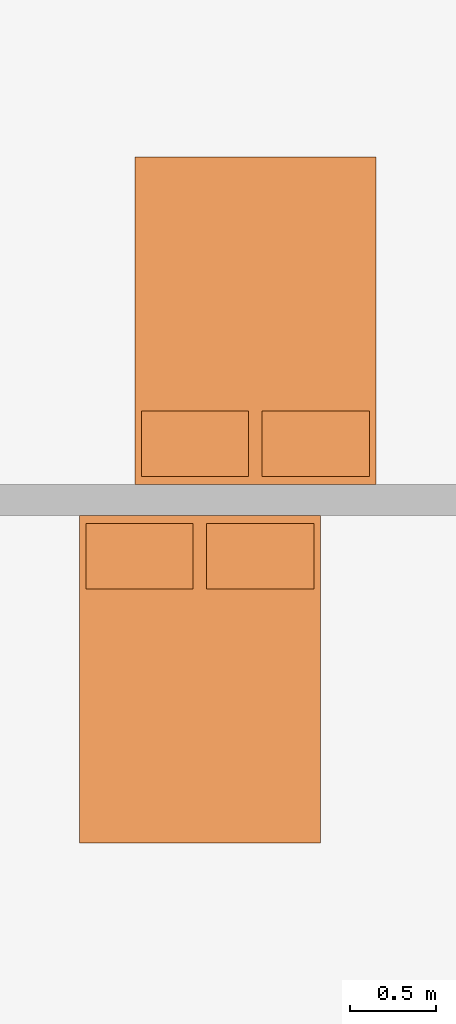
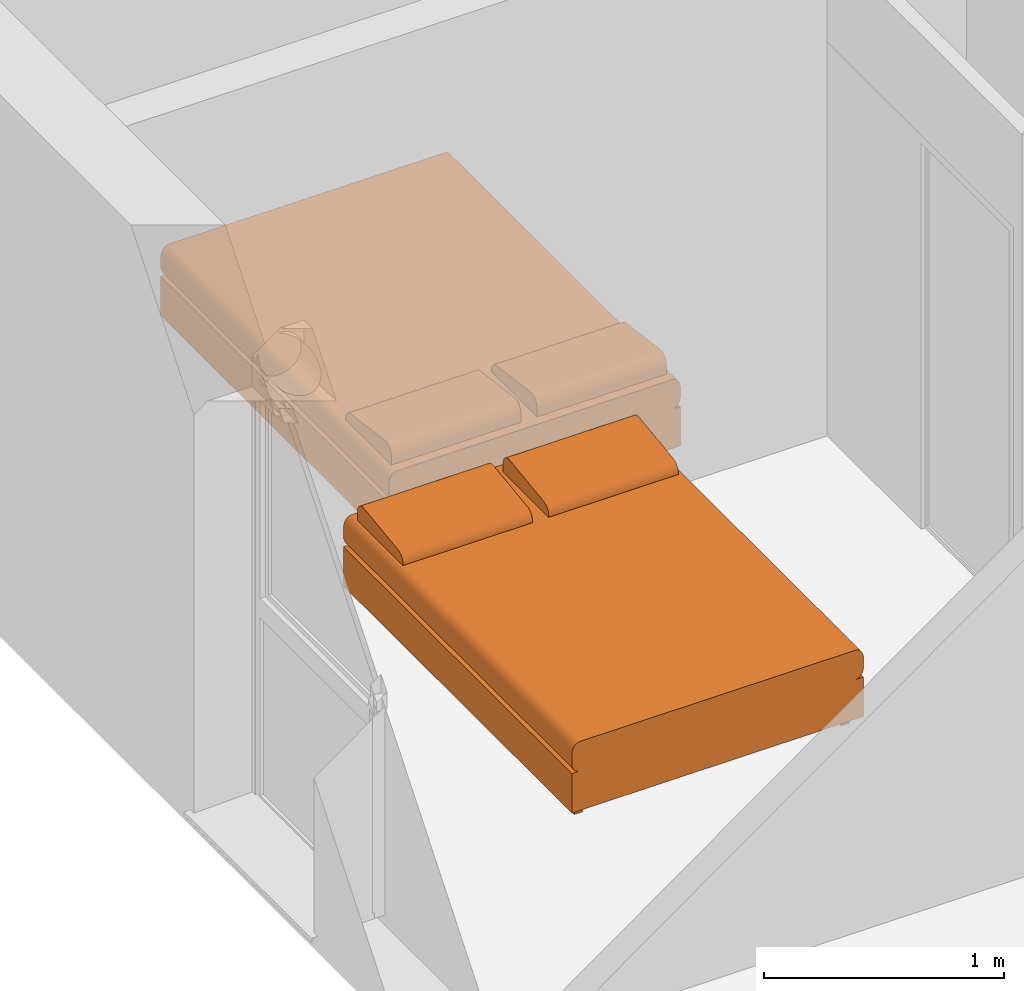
# One storey, part 148 of 164: 2 proxies.
"""IFC2X3 building model written with IfcOpenShell, lengths in millimetres."""

from ifc_helpers import new_model, entity, si_unit, converted_unit, derived_unit, money_unit, direction, frame, origin_with_axes, place, context, subcontext, project, spatial, open_shell, faceted_brep, surface_model, source, transform, mapped, type_object, element, save


model = new_model("IFC2X3")

# Units and contexts
model_context = context("Model", 3, precision=0.01, world=origin_with_axes(), true_north=direction((0.0, 1.0)))
body_context = subcontext(model_context, "Body", "Model", "MODEL_VIEW")
ifc_project = project(units=[si_unit("LENGTHUNIT", "METRE", prefix="MILLI"), si_unit("AREAUNIT", "SQUARE_METRE"), si_unit("VOLUMEUNIT", "CUBIC_METRE"), converted_unit("PLANEANGLEUNIT", "DEGREE", entity("IfcPlaneAngleMeasure", 0.0174532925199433), si_unit("PLANEANGLEUNIT", "RADIAN"), dimensions=[0, 0, 0, 0, 0, 0, 0]), money_unit("USD"), converted_unit("TIMEUNIT", "Year", entity("IfcTimeMeasure", 31557600.0), si_unit("TIMEUNIT", "SECOND"), dimensions=[0, 0, 1, 0, 0, 0, 0]), si_unit("MASSUNIT", "GRAM", prefix="KILO"), si_unit("THERMODYNAMICTEMPERATUREUNIT", "DEGREE_CELSIUS"), si_unit("LUMINOUSINTENSITYUNIT", "LUMEN"), si_unit("ENERGYUNIT", "JOULE", prefix="MEGA"), derived_unit("THERMALCONDUCTANCEUNIT", [(si_unit("POWERUNIT", "WATT"), 1), (si_unit("LENGTHUNIT", "METRE"), -1), (si_unit("THERMODYNAMICTEMPERATUREUNIT", "KELVIN"), -1)]), derived_unit("SPECIFICHEATCAPACITYUNIT", [(si_unit("ENERGYUNIT", "JOULE"), 1), (si_unit("MASSUNIT", "GRAM", prefix="KILO"), -1), (si_unit("THERMODYNAMICTEMPERATUREUNIT", "KELVIN"), -1)]), derived_unit("MASSDENSITYUNIT", [(si_unit("MASSUNIT", "GRAM", prefix="KILO"), 1), (si_unit("VOLUMEUNIT", "CUBIC_METRE"), -1)])], contexts=[model_context])

# Site, building, storey
site_placement = place(None, origin_with_axes())
site = spatial("IfcSite", under=ifc_project, at=site_placement, Name="Site", CompositionType="ELEMENT")
building_placement = place(site_placement, origin_with_axes())
building = spatial("IfcBuilding", under=site, at=building_placement, Name="Bâtiment", CompositionType="ELEMENT")
storey_placement = place(building_placement, frame((0.0, 0.0, 5750.0), z_axis=(0.0, 0.0, 1.0), x_axis=(1.0, 0.0, 0.0)))
storey = spatial("IfcBuildingStorey", under=building, at=storey_placement, Name="Etage1", CompositionType="ELEMENT", Elevation=5750.0)

# Proxies
building_element_proxy_type = type_object("IfcBuildingElementProxyType", PredefinedType="NOTDEFINED")
shared_shape_1 = source(origin_with_axes(), body_context, "Body", "SurfaceModel", [
    faceted_brep([(-622.2222222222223, -95.0, 0.0), (-661.1111111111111, -95.0, 0.0), (-661.1111111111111, -47.5, 0.0), (-622.2222222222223, -47.5, 0.0), (-622.2222222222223, -95.0, 50.0), (-661.1111111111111, -95.0, 50.0), (-661.1111111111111, -47.5, 50.0), (-622.2222222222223, -47.5, 50.0)], [[[0, 1, 2, 3]], [[1, 0, 4, 5]], [[2, 1, 5, 6]], [[3, 2, 6, 7]], [[0, 3, 7, 4]], [[5, 4, 7, 6]]]),
    faceted_brep([(-622.2222222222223, -1852.5, 0.0), (-661.1111111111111, -1852.5, 0.0), (-661.1111111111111, -1805.0, 0.0), (-622.2222222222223, -1805.0, 0.0), (-622.2222222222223, -1852.5, 50.0), (-661.1111111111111, -1852.5, 50.0), (-661.1111111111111, -1805.0, 50.0), (-622.2222222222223, -1805.0, 50.0)], [[[0, 1, 2, 3]], [[1, 0, 4, 5]], [[2, 1, 5, 6]], [[3, 2, 6, 7]], [[0, 3, 7, 4]], [[5, 4, 7, 6]]]),
    faceted_brep([(661.111111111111, -1852.5, 0.0), (622.2222222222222, -1852.5, 0.0), (622.2222222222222, -1805.0, 0.0), (661.111111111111, -1805.0, 0.0), (661.111111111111, -1852.5, 50.0), (622.2222222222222, -1852.5, 50.0), (622.2222222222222, -1805.0, 50.0), (661.111111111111, -1805.0, 50.0)], [[[0, 1, 2, 3]], [[1, 0, 4, 5]], [[2, 1, 5, 6]], [[3, 2, 6, 7]], [[0, 3, 7, 4]], [[5, 4, 7, 6]]]),
    faceted_brep([(661.111111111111, -94.99999999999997, 0.0), (622.2222222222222, -94.99999999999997, 0.0), (622.2222222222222, -47.49999999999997, 0.0), (661.111111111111, -47.49999999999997, 0.0), (661.111111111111, -94.99999999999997, 50.0), (622.2222222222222, -94.99999999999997, 50.0), (622.2222222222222, -47.49999999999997, 50.0), (661.111111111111, -47.49999999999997, 50.0)], [[[0, 1, 2, 3]], [[1, 0, 4, 5]], [[2, 1, 5, 6]], [[3, 2, 6, 7]], [[0, 3, 7, 4]], [[5, 4, 7, 6]]]),
    faceted_brep([(-700.0, 0.0, 50.0), (700.0, 0.0, 50.0), (700.0, -1900.0, 50.00000000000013), (-700.0, -1900.0, 50.00000000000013), (-700.0, 0.0, 250.0), (700.0, 0.0, 250.0), (700.0, -1900.0, 250.0000000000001), (-700.0, -1900.0, 250.0000000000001)], [[[0, 1, 2, 3]], [[0, 4, 5, 1]], [[1, 5, 6, 2]], [[3, 2, 6, 7]], [[4, 0, 3, 7]], [[5, 4, 7, 6]]]),
    surface_model("IfcShellBasedSurfaceModel", [(661.1111111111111, 0.0, 250.0), (667.8640957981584, 0.0, 250.7596123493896), (667.8640957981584, -1900.0, 250.7596123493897), (661.1111111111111, -1900.0, 250.0000000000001), (-661.1111111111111, 0.0, 250.0), (-667.8640957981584, 0.0, 250.7596123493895), (-674.4118944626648, 0.0, 253.0153689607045), (-680.5555555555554, 0.0, 256.698729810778), (-686.1084070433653, 0.0, 261.6977778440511), (-690.9017283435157, 0.0, 267.860619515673), (-694.7898768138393, 0.0, 275.0), (-697.654713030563, 0.0, 282.8989928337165), (-699.4091903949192, 0.0, 291.3175911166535), (-700.0, 0.0, 300.0000000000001), (-700.0000000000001, 0.0, 350.0), (-699.4091903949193, 0.0, 358.6824088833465), (-697.654713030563, 0.0, 367.1010071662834), (-694.7898768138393, 0.0, 375.0), (-690.9017283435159, 0.0, 382.139380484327), (-686.1084070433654, 0.0, 388.3022221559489), (-680.5555555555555, 0.0, 393.301270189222), (-674.4118944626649, 0.0, 396.9846310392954), (-667.8640957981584, 0.0, 399.2403876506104), (-661.1111111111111, 0.0, 400.0), (661.111111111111, 0.0, 400.0000000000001), (667.8640957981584, 0.0, 399.2403876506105), (674.4118944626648, 0.0, 396.9846310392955), (680.5555555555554, 0.0, 393.301270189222), (686.1084070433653, 0.0, 388.3022221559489), (690.9017283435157, 0.0, 382.139380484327), (694.7898768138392, 0.0, 375.0000000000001), (697.654713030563, 0.0, 367.1010071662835), (699.4091903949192, 0.0, 358.6824088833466), (700.0, 0.0, 350.0000000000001), (700.0, 0.0, 300.0000000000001), (699.4091903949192, 0.0, 291.3175911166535), (697.654713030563, 0.0, 282.8989928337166), (694.7898768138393, 0.0, 275.0), (690.9017283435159, 0.0, 267.8606195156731), (686.1084070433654, 0.0, 261.6977778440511), (680.5555555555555, 0.0, 256.698729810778), (674.4118944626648, 0.0, 253.0153689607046), (674.4118944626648, -1900.0, 253.0153689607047), (-661.1111111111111, -1900.0, 250.0000000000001), (680.5555555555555, -1900.0, 256.6987298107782), (686.1084070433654, -1900.0, 261.6977778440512), (690.9017283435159, -1900.0, 267.8606195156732), (694.7898768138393, -1900.0, 275.0000000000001), (697.654713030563, -1900.0, 282.8989928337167), (699.4091903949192, -1900.0, 291.3175911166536), (700.0, -1900.0, 300.0000000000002), (700.0, -1900.0, 350.0000000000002), (699.4091903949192, -1900.0, 358.6824088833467), (697.654713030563, -1900.0, 367.1010071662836), (694.7898768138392, -1900.0, 375.0000000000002), (690.9017283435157, -1900.0, 382.1393804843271), (686.1084070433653, -1900.0, 388.302222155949), (680.5555555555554, -1900.0, 393.3012701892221), (674.4118944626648, -1900.0, 396.9846310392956), (667.8640957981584, -1900.0, 399.2403876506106), (661.111111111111, -1900.0, 400.0000000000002), (-661.1111111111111, -1900.0, 400.0000000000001), (-667.8640957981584, -1900.0, 399.2403876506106), (-674.4118944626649, -1900.0, 396.9846310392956), (-680.5555555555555, -1900.0, 393.3012701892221), (-686.1084070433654, -1900.0, 388.302222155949), (-690.9017283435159, -1900.0, 382.1393804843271), (-694.7898768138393, -1900.0, 375.0000000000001), (-697.654713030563, -1900.0, 367.1010071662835), (-699.4091903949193, -1900.0, 358.6824088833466), (-700.0000000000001, -1900.0, 350.0000000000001), (-700.0, -1900.0, 300.0000000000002), (-699.4091903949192, -1900.0, 291.3175911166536), (-697.654713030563, -1900.0, 282.8989928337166), (-694.7898768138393, -1900.0, 275.0000000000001), (-690.9017283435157, -1900.0, 267.8606195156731), (-686.1084070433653, -1900.0, 261.6977778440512), (-680.5555555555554, -1900.0, 256.6987298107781), (-674.4118944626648, -1900.0, 253.0153689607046), (-667.8640957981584, -1900.0, 250.7596123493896)], [open_shell([[[0, 1, 2, 3]], [[4, 5, 6, 7, 8, 9, 10, 11, 12, 13, 14, 15, 16, 17, 18, 19, 20, 21, 22, 23, 24, 25, 26, 27, 28, 29, 30, 31, 32, 33, 34, 35, 36, 37, 38, 39, 40, 41, 1, 0]], [[1, 41, 42, 2]], [[43, 3, 2, 42, 44, 45, 46, 47, 48, 49, 50, 51, 52, 53, 54, 55, 56, 57, 58, 59, 60, 61, 62, 63, 64, 65, 66, 67, 68, 69, 70, 71, 72, 73, 74, 75, 76, 77, 78, 79]], [[5, 4, 43, 79]], [[6, 5, 79, 78]], [[7, 6, 78, 77]], [[8, 7, 77, 76]], [[9, 8, 76, 75]], [[10, 9, 75, 74]], [[11, 10, 74, 73]], [[12, 11, 73, 72]], [[13, 12, 72, 71]], [[14, 13, 71, 70]], [[15, 14, 70, 69]], [[16, 15, 69, 68]], [[17, 16, 68, 67]], [[18, 17, 67, 66]], [[19, 18, 66, 65]], [[20, 19, 65, 64]], [[21, 20, 64, 63]], [[22, 21, 63, 62]], [[23, 22, 62, 61]], [[24, 23, 61, 60]], [[25, 24, 60, 59]], [[26, 25, 59, 58]], [[27, 26, 58, 57]], [[28, 27, 57, 56]], [[29, 28, 56, 55]], [[30, 29, 55, 54]], [[31, 30, 54, 53]], [[32, 31, 53, 52]], [[33, 32, 52, 51]], [[34, 33, 51, 50]], [[35, 34, 50, 49]], [[36, 35, 49, 48]], [[37, 36, 48, 47]], [[38, 37, 47, 46]], [[39, 38, 46, 45]], [[40, 39, 45, 44]], [[41, 40, 44, 42]]])]),
    faceted_brep([(38.88888888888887, -47.49999999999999, 400.0), (38.88888888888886, -47.49999999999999, 443.4), (661.1111111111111, -47.50000000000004, 443.4000000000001), (661.1111111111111, -47.50000000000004, 400.0000000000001), (38.88888888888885, -427.5, 400.0), (38.88888888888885, -427.6960812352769, 408.695442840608), (38.88888888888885, -426.4675711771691, 417.2966661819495), (38.88888888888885, -423.8511300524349, 425.5469991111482), (38.88888888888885, -419.9248356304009, 433.2002417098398), (38.88888888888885, -414.8058532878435, 440.0280119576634), (38.88888888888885, -408.6469396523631, 445.826560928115), (38.88888888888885, -401.6318841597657, 450.4228529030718), (38.88888888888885, -393.9700245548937, 453.6797289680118), (38.88888888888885, -385.89, 455.5), (38.88888888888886, -100.89, 493.0000000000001), (38.88888888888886, -92.85488048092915, 493.3370808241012), (38.88888888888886, -84.88093291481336, 492.2422169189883), (38.88888888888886, -77.19681007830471, 489.7468034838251), (38.88888888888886, -70.02285403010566, 485.922396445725), (38.88888888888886, -63.56477780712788, 480.878660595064), (38.88888888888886, -58.00776660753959, 474.7602249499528), (38.88888888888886, -53.51116760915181, 467.7425355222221), (38.88888888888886, -50.20392069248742, 460.0268244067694), (38.88888888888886, -48.18086109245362, 451.834339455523), (661.1111111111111, -48.18086109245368, 451.8343394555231), (661.1111111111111, -50.20392069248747, 460.0268244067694), (661.1111111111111, -53.51116760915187, 467.7425355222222), (661.1111111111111, -58.00776660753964, 474.7602249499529), (661.1111111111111, -63.56477780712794, 480.878660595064), (661.1111111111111, -70.02285403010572, 485.922396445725), (661.1111111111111, -77.19681007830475, 489.7468034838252), (661.1111111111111, -84.88093291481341, 492.2422169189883), (661.1111111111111, -92.85488048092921, 493.3370808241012), (661.1111111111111, -100.8900000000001, 493.0000000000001), (661.1111111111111, -385.89, 455.5000000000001), (661.1111111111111, -393.9700245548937, 453.6797289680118), (661.1111111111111, -401.6318841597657, 450.4228529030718), (661.1111111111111, -408.6469396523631, 445.826560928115), (661.1111111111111, -414.8058532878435, 440.0280119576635), (661.1111111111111, -419.924835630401, 433.2002417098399), (661.1111111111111, -423.8511300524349, 425.5469991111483), (661.1111111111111, -426.4675711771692, 417.2966661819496), (661.1111111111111, -427.6960812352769, 408.6954428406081), (661.1111111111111, -427.5, 400.0000000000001)], [[[0, 1, 2, 3]], [[0, 4, 5, 6, 7, 8, 9, 10, 11, 12, 13, 14, 15, 16, 17, 18, 19, 20, 21, 22, 23, 1]], [[1, 23, 24, 2]], [[3, 2, 24, 25, 26, 27, 28, 29, 30, 31, 32, 33, 34, 35, 36, 37, 38, 39, 40, 41, 42, 43]], [[4, 0, 3, 43]], [[5, 4, 43, 42]], [[6, 5, 42, 41]], [[7, 6, 41, 40]], [[8, 7, 40, 39]], [[9, 8, 39, 38]], [[10, 9, 38, 37]], [[11, 10, 37, 36]], [[12, 11, 36, 35]], [[13, 12, 35, 34]], [[14, 13, 34, 33]], [[15, 14, 33, 32]], [[16, 15, 32, 31]], [[17, 16, 31, 30]], [[18, 17, 30, 29]], [[19, 18, 29, 28]], [[20, 19, 28, 27]], [[21, 20, 27, 26]], [[22, 21, 26, 25]], [[23, 22, 25, 24]]]),
    faceted_brep([(-661.1111111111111, -47.49999999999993, 399.9999999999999), (-661.1111111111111, -47.49999999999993, 443.4), (-38.88888888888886, -47.49999999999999, 443.4), (-38.88888888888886, -47.49999999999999, 400.0), (-661.1111111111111, -427.4999999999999, 399.9999999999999), (-661.1111111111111, -427.6960812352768, 408.6954428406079), (-661.1111111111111, -426.4675711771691, 417.2966661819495), (-661.1111111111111, -423.8511300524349, 425.5469991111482), (-661.1111111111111, -419.9248356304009, 433.2002417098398), (-661.1111111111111, -414.8058532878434, 440.0280119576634), (-661.1111111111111, -408.646939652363, 445.8265609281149), (-661.1111111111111, -401.6318841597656, 450.4228529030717), (-661.1111111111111, -393.9700245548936, 453.6797289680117), (-661.1111111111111, -385.8899999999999, 455.4999999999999), (-661.1111111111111, -100.89, 493.0), (-661.1111111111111, -92.8548804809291, 493.3370808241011), (-661.1111111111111, -84.8809329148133, 492.2422169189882), (-661.1111111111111, -77.19681007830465, 489.7468034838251), (-661.1111111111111, -70.0228540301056, 485.9223964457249), (-661.1111111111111, -63.56477780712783, 480.8786605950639), (-661.1111111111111, -58.00776660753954, 474.7602249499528), (-661.1111111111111, -53.51116760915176, 467.7425355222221), (-661.1111111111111, -50.20392069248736, 460.0268244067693), (-661.1111111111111, -48.18086109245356, 451.834339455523), (-38.88888888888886, -48.18086109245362, 451.834339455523), (-38.88888888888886, -50.20392069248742, 460.0268244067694), (-38.88888888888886, -53.51116760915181, 467.7425355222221), (-38.88888888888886, -58.00776660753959, 474.7602249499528), (-38.88888888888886, -63.56477780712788, 480.878660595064), (-38.88888888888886, -70.02285403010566, 485.922396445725), (-38.88888888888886, -77.19681007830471, 489.7468034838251), (-38.88888888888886, -84.88093291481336, 492.2422169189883), (-38.88888888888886, -92.85488048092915, 493.3370808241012), (-38.88888888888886, -100.89, 493.0000000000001), (-38.88888888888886, -385.8899999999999, 455.5), (-38.88888888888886, -393.9700245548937, 453.6797289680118), (-38.88888888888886, -401.6318841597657, 450.4228529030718), (-38.88888888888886, -408.6469396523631, 445.826560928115), (-38.88888888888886, -414.8058532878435, 440.0280119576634), (-38.88888888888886, -419.9248356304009, 433.2002417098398), (-38.88888888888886, -423.8511300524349, 425.5469991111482), (-38.88888888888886, -426.4675711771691, 417.2966661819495), (-38.88888888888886, -427.6960812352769, 408.695442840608), (-38.88888888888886, -427.4999999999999, 400.0)], [[[0, 1, 2, 3]], [[0, 4, 5, 6, 7, 8, 9, 10, 11, 12, 13, 14, 15, 16, 17, 18, 19, 20, 21, 22, 23, 1]], [[1, 23, 24, 2]], [[3, 2, 24, 25, 26, 27, 28, 29, 30, 31, 32, 33, 34, 35, 36, 37, 38, 39, 40, 41, 42, 43]], [[4, 0, 3, 43]], [[5, 4, 43, 42]], [[6, 5, 42, 41]], [[7, 6, 41, 40]], [[8, 7, 40, 39]], [[9, 8, 39, 38]], [[10, 9, 38, 37]], [[11, 10, 37, 36]], [[12, 11, 36, 35]], [[13, 12, 35, 34]], [[14, 13, 34, 33]], [[15, 14, 33, 32]], [[16, 15, 32, 31]], [[17, 16, 31, 30]], [[18, 17, 30, 29]], [[19, 18, 29, 28]], [[20, 19, 28, 27]], [[21, 20, 27, 26]], [[22, 21, 26, 25]], [[23, 22, 25, 24]]]),
])
proxy_1_placement = place(storey_placement, frame((2218718.618679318, -632613.6186700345, 0.0), z_axis=(0.0, 0.0, 1.0), x_axis=(0.9999999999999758, -2.201927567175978e-07, 0.0)))
element("IfcBuildingElementProxy", 1, at=proxy_1_placement, inside=storey, type_object=building_element_proxy_type, Name="Obj.-003", context=body_context, shape_type="MappedRepresentation", body=[
    mapped(shared_shape_1, transform((0.0, 0.0, 0.0))),
])
shared_shape_2 = source(origin_with_axes(), body_context, "Body", "SurfaceModel", [
    faceted_brep([(622.2222222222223, -95.0, 0.0), (622.2222222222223, -47.5, 0.0), (661.1111111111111, -47.5, 0.0), (661.1111111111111, -95.0, 0.0), (622.2222222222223, -95.0, 50.0), (622.2222222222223, -47.5, 50.0), (661.1111111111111, -47.5, 50.0), (661.1111111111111, -95.0, 50.0)], [[[0, 1, 2, 3]], [[0, 4, 5, 1]], [[1, 5, 6, 2]], [[2, 6, 7, 3]], [[3, 7, 4, 0]], [[7, 6, 5, 4]]]),
    faceted_brep([(622.2222222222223, -1852.5, 0.0), (622.2222222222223, -1805.0, 0.0), (661.1111111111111, -1805.0, 0.0), (661.1111111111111, -1852.5, 0.0), (622.2222222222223, -1852.5, 50.0), (622.2222222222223, -1805.0, 50.0), (661.1111111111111, -1805.0, 50.0), (661.1111111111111, -1852.5, 50.0)], [[[0, 1, 2, 3]], [[0, 4, 5, 1]], [[1, 5, 6, 2]], [[2, 6, 7, 3]], [[3, 7, 4, 0]], [[7, 6, 5, 4]]]),
    faceted_brep([(-661.111111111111, -1852.5, 0.0), (-661.111111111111, -1805.0, 0.0), (-622.2222222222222, -1805.0, 0.0), (-622.2222222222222, -1852.5, 0.0), (-661.111111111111, -1852.5, 50.0), (-661.111111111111, -1805.0, 50.0), (-622.2222222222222, -1805.0, 50.0), (-622.2222222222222, -1852.5, 50.0)], [[[0, 1, 2, 3]], [[0, 4, 5, 1]], [[1, 5, 6, 2]], [[2, 6, 7, 3]], [[3, 7, 4, 0]], [[7, 6, 5, 4]]]),
    faceted_brep([(-661.111111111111, -94.99999999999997, 0.0), (-661.111111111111, -47.49999999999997, 0.0), (-622.2222222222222, -47.49999999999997, 0.0), (-622.2222222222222, -94.99999999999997, 0.0), (-661.111111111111, -94.99999999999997, 50.0), (-661.111111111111, -47.49999999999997, 50.0), (-622.2222222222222, -47.49999999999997, 50.0), (-622.2222222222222, -94.99999999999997, 50.0)], [[[0, 1, 2, 3]], [[0, 4, 5, 1]], [[1, 5, 6, 2]], [[2, 6, 7, 3]], [[3, 7, 4, 0]], [[7, 6, 5, 4]]]),
    faceted_brep([(700.0, 0.0, 50.0), (700.0, -1900.0, 50.00000000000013), (-700.0, -1900.0, 50.00000000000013), (-700.0, 0.0, 50.0), (700.0, 0.0, 250.0), (700.0, -1900.0, 250.0000000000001), (-700.0, -1900.0, 250.0000000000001), (-700.0, 0.0, 250.0)], [[[0, 1, 2, 3]], [[4, 5, 1, 0]], [[1, 5, 6, 2]], [[3, 2, 6, 7]], [[0, 3, 7, 4]], [[7, 6, 5, 4]]]),
    surface_model("IfcShellBasedSurfaceModel", [(-661.1111111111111, 0.0, 250.0), (-661.1111111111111, -1900.0, 250.0000000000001), (-667.8640957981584, -1900.0, 250.7596123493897), (-667.8640957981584, 0.0, 250.7596123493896), (661.1111111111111, -1900.0, 250.0000000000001), (667.8640957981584, -1900.0, 250.7596123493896), (674.4118944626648, -1900.0, 253.0153689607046), (680.5555555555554, -1900.0, 256.6987298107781), (686.1084070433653, -1900.0, 261.6977778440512), (690.9017283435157, -1900.0, 267.8606195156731), (694.7898768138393, -1900.0, 275.0000000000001), (697.654713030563, -1900.0, 282.8989928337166), (699.4091903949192, -1900.0, 291.3175911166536), (700.0, -1900.0, 300.0000000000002), (700.0000000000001, -1900.0, 350.0000000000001), (699.4091903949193, -1900.0, 358.6824088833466), (697.654713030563, -1900.0, 367.1010071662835), (694.7898768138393, -1900.0, 375.0000000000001), (690.9017283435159, -1900.0, 382.1393804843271), (686.1084070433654, -1900.0, 388.302222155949), (680.5555555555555, -1900.0, 393.3012701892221), (674.4118944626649, -1900.0, 396.9846310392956), (667.8640957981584, -1900.0, 399.2403876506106), (661.1111111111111, -1900.0, 400.0000000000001), (-661.111111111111, -1900.0, 400.0000000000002), (-667.8640957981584, -1900.0, 399.2403876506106), (-674.4118944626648, -1900.0, 396.9846310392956), (-680.5555555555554, -1900.0, 393.3012701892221), (-686.1084070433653, -1900.0, 388.302222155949), (-690.9017283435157, -1900.0, 382.1393804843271), (-694.7898768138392, -1900.0, 375.0000000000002), (-697.654713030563, -1900.0, 367.1010071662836), (-699.4091903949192, -1900.0, 358.6824088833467), (-700.0, -1900.0, 350.0000000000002), (-700.0, -1900.0, 300.0000000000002), (-699.4091903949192, -1900.0, 291.3175911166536), (-697.654713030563, -1900.0, 282.8989928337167), (-694.7898768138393, -1900.0, 275.0000000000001), (-690.9017283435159, -1900.0, 267.8606195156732), (-686.1084070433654, -1900.0, 261.6977778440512), (-680.5555555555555, -1900.0, 256.6987298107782), (-674.4118944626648, -1900.0, 253.0153689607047), (-674.4118944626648, 0.0, 253.0153689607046), (661.1111111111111, 0.0, 250.0), (-680.5555555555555, 0.0, 256.698729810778), (-686.1084070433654, 0.0, 261.6977778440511), (-690.9017283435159, 0.0, 267.8606195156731), (-694.7898768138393, 0.0, 275.0), (-697.654713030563, 0.0, 282.8989928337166), (-699.4091903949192, 0.0, 291.3175911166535), (-700.0, 0.0, 300.0000000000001), (-700.0, 0.0, 350.0000000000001), (-699.4091903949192, 0.0, 358.6824088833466), (-697.654713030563, 0.0, 367.1010071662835), (-694.7898768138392, 0.0, 375.0000000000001), (-690.9017283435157, 0.0, 382.139380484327), (-686.1084070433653, 0.0, 388.3022221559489), (-680.5555555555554, 0.0, 393.301270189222), (-674.4118944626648, 0.0, 396.9846310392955), (-667.8640957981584, 0.0, 399.2403876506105), (-661.111111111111, 0.0, 400.0000000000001), (661.1111111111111, 0.0, 400.0), (667.8640957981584, 0.0, 399.2403876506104), (674.4118944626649, 0.0, 396.9846310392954), (680.5555555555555, 0.0, 393.301270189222), (686.1084070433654, 0.0, 388.3022221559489), (690.9017283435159, 0.0, 382.139380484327), (694.7898768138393, 0.0, 375.0), (697.654713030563, 0.0, 367.1010071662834), (699.4091903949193, 0.0, 358.6824088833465), (700.0000000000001, 0.0, 350.0), (700.0, 0.0, 300.0000000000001), (699.4091903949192, 0.0, 291.3175911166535), (697.654713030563, 0.0, 282.8989928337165), (694.7898768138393, 0.0, 275.0), (690.9017283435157, 0.0, 267.860619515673), (686.1084070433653, 0.0, 261.6977778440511), (680.5555555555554, 0.0, 256.698729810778), (674.4118944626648, 0.0, 253.0153689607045), (667.8640957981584, 0.0, 250.7596123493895)], [open_shell([[[0, 1, 2, 3]], [[4, 5, 6, 7, 8, 9, 10, 11, 12, 13, 14, 15, 16, 17, 18, 19, 20, 21, 22, 23, 24, 25, 26, 27, 28, 29, 30, 31, 32, 33, 34, 35, 36, 37, 38, 39, 40, 41, 2, 1]], [[3, 2, 41, 42]], [[43, 0, 3, 42, 44, 45, 46, 47, 48, 49, 50, 51, 52, 53, 54, 55, 56, 57, 58, 59, 60, 61, 62, 63, 64, 65, 66, 67, 68, 69, 70, 71, 72, 73, 74, 75, 76, 77, 78, 79]], [[79, 5, 4, 43]], [[78, 6, 5, 79]], [[77, 7, 6, 78]], [[76, 8, 7, 77]], [[75, 9, 8, 76]], [[74, 10, 9, 75]], [[73, 11, 10, 74]], [[72, 12, 11, 73]], [[71, 13, 12, 72]], [[70, 14, 13, 71]], [[69, 15, 14, 70]], [[68, 16, 15, 69]], [[67, 17, 16, 68]], [[66, 18, 17, 67]], [[65, 19, 18, 66]], [[64, 20, 19, 65]], [[63, 21, 20, 64]], [[62, 22, 21, 63]], [[61, 23, 22, 62]], [[60, 24, 23, 61]], [[59, 25, 24, 60]], [[58, 26, 25, 59]], [[57, 27, 26, 58]], [[56, 28, 27, 57]], [[55, 29, 28, 56]], [[54, 30, 29, 55]], [[53, 31, 30, 54]], [[52, 32, 31, 53]], [[51, 33, 32, 52]], [[50, 34, 33, 51]], [[49, 35, 34, 50]], [[48, 36, 35, 49]], [[47, 37, 36, 48]], [[46, 38, 37, 47]], [[45, 39, 38, 46]], [[44, 40, 39, 45]], [[42, 41, 40, 44]]])]),
    faceted_brep([(-38.88888888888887, -47.49999999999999, 400.0), (-661.1111111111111, -47.50000000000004, 400.0000000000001), (-661.1111111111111, -47.50000000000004, 443.4000000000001), (-38.88888888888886, -47.49999999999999, 443.4), (-38.88888888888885, -427.5, 400.0), (-661.1111111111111, -427.5, 400.0000000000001), (-661.1111111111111, -427.6960812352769, 408.6954428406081), (-661.1111111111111, -426.4675711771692, 417.2966661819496), (-661.1111111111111, -423.8511300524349, 425.5469991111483), (-661.1111111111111, -419.924835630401, 433.2002417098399), (-661.1111111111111, -414.8058532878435, 440.0280119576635), (-661.1111111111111, -408.6469396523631, 445.826560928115), (-661.1111111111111, -401.6318841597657, 450.4228529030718), (-661.1111111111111, -393.9700245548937, 453.6797289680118), (-661.1111111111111, -385.89, 455.5000000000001), (-661.1111111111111, -100.8900000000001, 493.0000000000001), (-661.1111111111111, -92.85488048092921, 493.3370808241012), (-661.1111111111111, -84.88093291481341, 492.2422169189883), (-661.1111111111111, -77.19681007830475, 489.7468034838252), (-661.1111111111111, -70.02285403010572, 485.922396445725), (-661.1111111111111, -63.56477780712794, 480.878660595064), (-661.1111111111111, -58.00776660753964, 474.7602249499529), (-661.1111111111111, -53.51116760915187, 467.7425355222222), (-661.1111111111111, -50.20392069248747, 460.0268244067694), (-661.1111111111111, -48.18086109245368, 451.8343394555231), (-38.88888888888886, -48.18086109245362, 451.834339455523), (-38.88888888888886, -50.20392069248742, 460.0268244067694), (-38.88888888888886, -53.51116760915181, 467.7425355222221), (-38.88888888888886, -58.00776660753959, 474.7602249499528), (-38.88888888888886, -63.56477780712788, 480.878660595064), (-38.88888888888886, -70.02285403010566, 485.922396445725), (-38.88888888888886, -77.19681007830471, 489.7468034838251), (-38.88888888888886, -84.88093291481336, 492.2422169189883), (-38.88888888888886, -92.85488048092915, 493.3370808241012), (-38.88888888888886, -100.89, 493.0000000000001), (-38.88888888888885, -385.89, 455.5), (-38.88888888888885, -393.9700245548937, 453.6797289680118), (-38.88888888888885, -401.6318841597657, 450.4228529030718), (-38.88888888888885, -408.6469396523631, 445.826560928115), (-38.88888888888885, -414.8058532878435, 440.0280119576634), (-38.88888888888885, -419.9248356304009, 433.2002417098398), (-38.88888888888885, -423.8511300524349, 425.5469991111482), (-38.88888888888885, -426.4675711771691, 417.2966661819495), (-38.88888888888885, -427.6960812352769, 408.695442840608)], [[[0, 1, 2, 3]], [[4, 5, 1, 0]], [[1, 5, 6, 7, 8, 9, 10, 11, 12, 13, 14, 15, 16, 17, 18, 19, 20, 21, 22, 23, 24, 2]], [[3, 2, 24, 25]], [[0, 3, 25, 26, 27, 28, 29, 30, 31, 32, 33, 34, 35, 36, 37, 38, 39, 40, 41, 42, 43, 4]], [[43, 6, 5, 4]], [[42, 7, 6, 43]], [[41, 8, 7, 42]], [[40, 9, 8, 41]], [[39, 10, 9, 40]], [[38, 11, 10, 39]], [[37, 12, 11, 38]], [[36, 13, 12, 37]], [[35, 14, 13, 36]], [[34, 15, 14, 35]], [[33, 16, 15, 34]], [[32, 17, 16, 33]], [[31, 18, 17, 32]], [[30, 19, 18, 31]], [[29, 20, 19, 30]], [[28, 21, 20, 29]], [[27, 22, 21, 28]], [[26, 23, 22, 27]], [[25, 24, 23, 26]]]),
    faceted_brep([(661.1111111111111, -47.49999999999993, 399.9999999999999), (38.88888888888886, -47.49999999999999, 400.0), (38.88888888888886, -47.49999999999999, 443.4), (661.1111111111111, -47.49999999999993, 443.4), (661.1111111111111, -427.4999999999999, 399.9999999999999), (38.88888888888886, -427.4999999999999, 400.0), (38.88888888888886, -427.6960812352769, 408.695442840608), (38.88888888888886, -426.4675711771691, 417.2966661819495), (38.88888888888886, -423.8511300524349, 425.5469991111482), (38.88888888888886, -419.9248356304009, 433.2002417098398), (38.88888888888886, -414.8058532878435, 440.0280119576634), (38.88888888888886, -408.6469396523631, 445.826560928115), (38.88888888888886, -401.6318841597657, 450.4228529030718), (38.88888888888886, -393.9700245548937, 453.6797289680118), (38.88888888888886, -385.8899999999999, 455.5), (38.88888888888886, -100.89, 493.0000000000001), (38.88888888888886, -92.85488048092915, 493.3370808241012), (38.88888888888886, -84.88093291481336, 492.2422169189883), (38.88888888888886, -77.19681007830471, 489.7468034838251), (38.88888888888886, -70.02285403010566, 485.922396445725), (38.88888888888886, -63.56477780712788, 480.878660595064), (38.88888888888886, -58.00776660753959, 474.7602249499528), (38.88888888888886, -53.51116760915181, 467.7425355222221), (38.88888888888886, -50.20392069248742, 460.0268244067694), (38.88888888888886, -48.18086109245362, 451.834339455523), (661.1111111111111, -48.18086109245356, 451.834339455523), (661.1111111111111, -50.20392069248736, 460.0268244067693), (661.1111111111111, -53.51116760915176, 467.7425355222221), (661.1111111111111, -58.00776660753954, 474.7602249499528), (661.1111111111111, -63.56477780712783, 480.8786605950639), (661.1111111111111, -70.0228540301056, 485.9223964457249), (661.1111111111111, -77.19681007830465, 489.7468034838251), (661.1111111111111, -84.8809329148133, 492.2422169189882), (661.1111111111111, -92.8548804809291, 493.3370808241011), (661.1111111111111, -100.89, 493.0), (661.1111111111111, -385.8899999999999, 455.4999999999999), (661.1111111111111, -393.9700245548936, 453.6797289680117), (661.1111111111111, -401.6318841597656, 450.4228529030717), (661.1111111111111, -408.646939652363, 445.8265609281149), (661.1111111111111, -414.8058532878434, 440.0280119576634), (661.1111111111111, -419.9248356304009, 433.2002417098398), (661.1111111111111, -423.8511300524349, 425.5469991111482), (661.1111111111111, -426.4675711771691, 417.2966661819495), (661.1111111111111, -427.6960812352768, 408.6954428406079)], [[[0, 1, 2, 3]], [[4, 5, 1, 0]], [[1, 5, 6, 7, 8, 9, 10, 11, 12, 13, 14, 15, 16, 17, 18, 19, 20, 21, 22, 23, 24, 2]], [[3, 2, 24, 25]], [[0, 3, 25, 26, 27, 28, 29, 30, 31, 32, 33, 34, 35, 36, 37, 38, 39, 40, 41, 42, 43, 4]], [[43, 6, 5, 4]], [[42, 7, 6, 43]], [[41, 8, 7, 42]], [[40, 9, 8, 41]], [[39, 10, 9, 40]], [[38, 11, 10, 39]], [[37, 12, 11, 38]], [[36, 13, 12, 37]], [[35, 14, 13, 36]], [[34, 15, 14, 35]], [[33, 16, 15, 34]], [[32, 17, 16, 33]], [[31, 18, 17, 32]], [[30, 19, 18, 31]], [[29, 20, 19, 30]], [[28, 21, 20, 29]], [[27, 22, 21, 28]], [[26, 23, 22, 27]], [[25, 24, 23, 26]]]),
])
proxy_2_placement = place(storey_placement, frame((2219040.802146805, -632433.5126669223, 0.0), z_axis=(0.0, 0.0, 1.0), x_axis=(-0.9999999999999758, -2.201927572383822e-07, 0.0)))
element("IfcBuildingElementProxy", 2, at=proxy_2_placement, inside=storey, type_object=building_element_proxy_type, Name="Obj.-003", context=body_context, shape_type="MappedRepresentation", body=[
    mapped(shared_shape_2, transform((0.0, 0.0, 0.0))),
])

save(model, "model.ifc")
